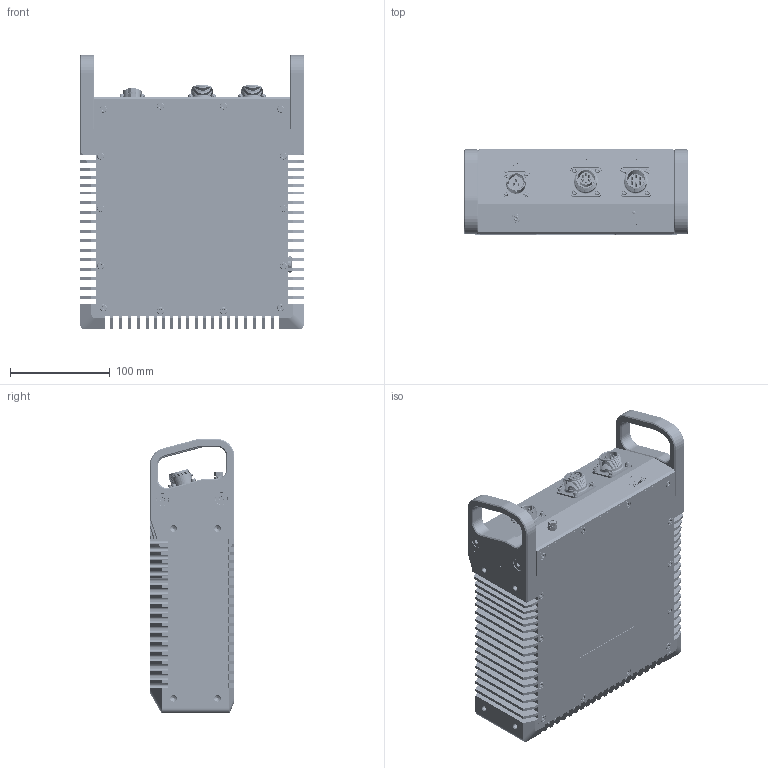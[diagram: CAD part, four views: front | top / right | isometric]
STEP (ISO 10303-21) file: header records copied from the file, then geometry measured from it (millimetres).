
FILE_DESCRIPTION (( 'STEP AP203' ), '1' );
FILE_NAME ('PSU, ASSEMBLY Rev.STEP', '2026-07-21T21:01:34', ( '' ), ( '' ), 'SwSTEP 2.0', 'SolidWorks 2024', '' );
FILE_SCHEMA (( 'CONFIG_CONTROL_DESIGN' ));
Length unit declared in the file: millimetre
Products named in the file (23): MS3102E14S-6P; 93395A362_TYPE 316 SS FLAT-HEAD SOCKET CAP SCREW_93395A362; RUBBER GASKET, PSU; 700-0008-00, GND SET SCREW, ASSY; 90965A115_TYPE 316 STAINLESS STEEL FLAT WASHER_90965A115; 400-0254-00; 92153A411_TYPE 316 STAINLESS STEEL SPLIT LOCK WASHER_92153A411; LFB063CTP; MS3102E14S-6S; RTN112; 400-0251-00; PT02E-12-3P; M5 X 20, SET SCREW_92605A243; PSU, ASSEMBLY Rev; MS52000-4; M5 NUT_94150A340; 400-0253-00; 92290A154_TYPE 316 SS SOCKET HEAD CAP SCREW_92290A154; 400-0252-00; VENT-PS1NGY-N8001; Gasket_10-101949-12; 92290A058_TYPE 316 SS SOCKET HEAD CAP SCREW_92290A058; M5 SPLIT LOCK WASHER_94241A530
Assembly tree (73 placements, depth 3):
  PSU, ASSEMBLY Rev
    400-0251-00
    400-0252-00
    400-0254-00
    400-0253-00
    RUBBER GASKET, PSU
    700-0008-00, GND SET SCREW, ASSY
      M5 X 20, SET SCREW_92605A243
      M5 NUT_94150A340  x2
      M5 SPLIT LOCK WASHER_94241A530
    PT02E-12-3P
    MS3102E14S-6P
    MS3102E14S-6S
    MS52000-4  x2
    Gasket_10-101949-12
    93395A362_TYPE 316 SS FLAT-HEAD SOCKET CAP SCREW_93395A362  x4
    92290A154_TYPE 316 SS SOCKET HEAD CAP SCREW_92290A154  x14
    VENT-PS1NGY-N8001
    90965A115_TYPE 316 STAINLESS STEEL FLAT WASHER_90965A115  x12
    92153A411_TYPE 316 STAINLESS STEEL SPLIT LOCK WASHER_92153A411  x12
    92290A058_TYPE 316 SS SOCKET HEAD CAP SCREW_92290A058  x12
    LFB063CTP
    RTN112
Bounding box: 224 x 85 x 275 mm (x, y, z)
Volume: 1697070.1 mm3; surface area: 634769.5 mm2
Topology: 86 solids, 86 shells, 5770 faces, 15291 edges, 9798 vertices
Faces by surface type: cylinder 3366, plane 1420, cone 758, bspline 182, torus 40, sphere 4
Entity records: 102021 total; most frequent: CARTESIAN_POINT 36173, ORIENTED_EDGE 13336, DIRECTION 12531, EDGE_CURVE 6668, AXIS2_PLACEMENT_3D 4356, VERTEX_POINT 4269, LINE 3819, VECTOR 3819
